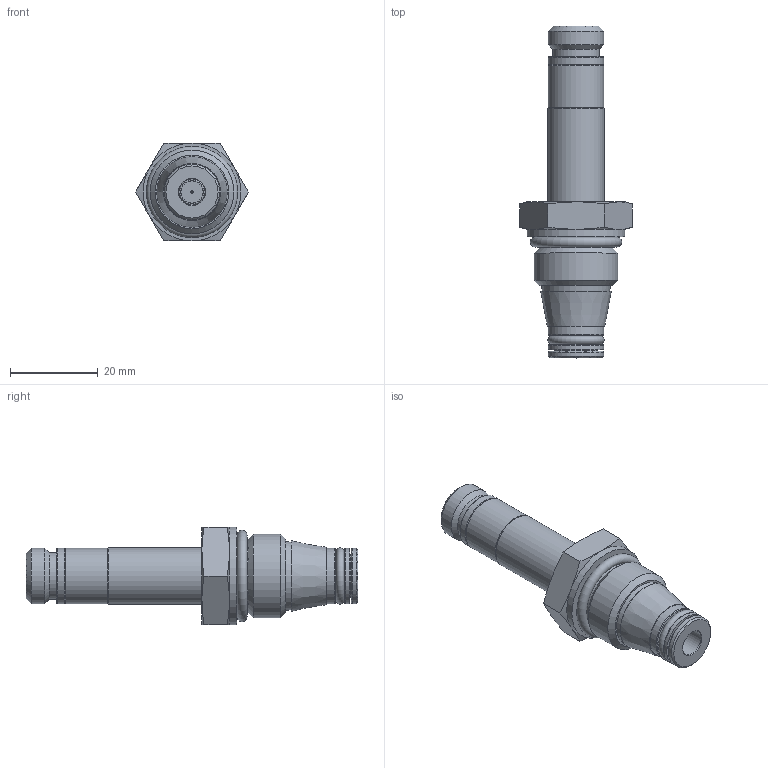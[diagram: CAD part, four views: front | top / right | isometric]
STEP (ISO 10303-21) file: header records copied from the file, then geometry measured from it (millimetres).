
FILE_DESCRIPTION(/* description */ (''),/* implementation_level */ '2;1');
FILE_NAME(/* name */ 'C:\Users\mcooper\OneDrive - Deltrol Corporation\Desktop\DFP_Docs\Deltrol\Catalog Pages - Proportional Valve Line\Website\DPV-080-2NCP\DPV-080-2NCP.stp',/* time_stamp */ '2026-01-29T08:48:54-05:00',/* author */ ('mcooper'),/* organization */ (''),/* preprocessor_version */ 'ST-DEVELOPER v18',/* originating_system */ 'Autodesk Inventor 2020',/* authorisation */ '');
FILE_SCHEMA (('AUTOMOTIVE_DESIGN { 1 0 10303 214 3 1 1 }'));
Length unit declared in the file: inch
Products named in the file (1): 10286-41_Shrinkwrap_1
Bounding box: 25.66 x 75.51 x 22.23 mm (x, y, z)
Volume: 10497.2 mm3; surface area: 11155.3 mm2
Topology: 11 solids, 11 shells, 205 faces, 560 edges, 389 vertices
Faces by surface type: plane 76, cone 58, cylinder 57, torus 13, bspline 1
Full cylindrical faces by diameter (mm): 0.381 x1, 0.508 x1, 2.388 x1, 2.413 x6, 4.14 x1, 5.08 x1, 5.156 x1, 5.969 x1, 5.992 x1, 6.662 x1, 7.468 x1, 7.925 x1, 8.001 x1, 8.23 x1, 8.308 x3, 9.324 x4, 9.337 x1, 9.728 x1, 9.804 x1, 9.83 x1, 9.906 x1, 10.643 x1, 10.998 x1, 11.062 x1, 11.582 x2, 11.938 x1, 11.989 x1, 12.598 x2, 12.649 x2, 12.7 x3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
Entity records: 7493 total; most frequent: CARTESIAN_POINT 1776, DIRECTION 1213, ORIENTED_EDGE 1120, EDGE_CURVE 560, AXIS2_PLACEMENT_3D 517, VERTEX_POINT 389, CIRCLE 312, EDGE_LOOP 249
